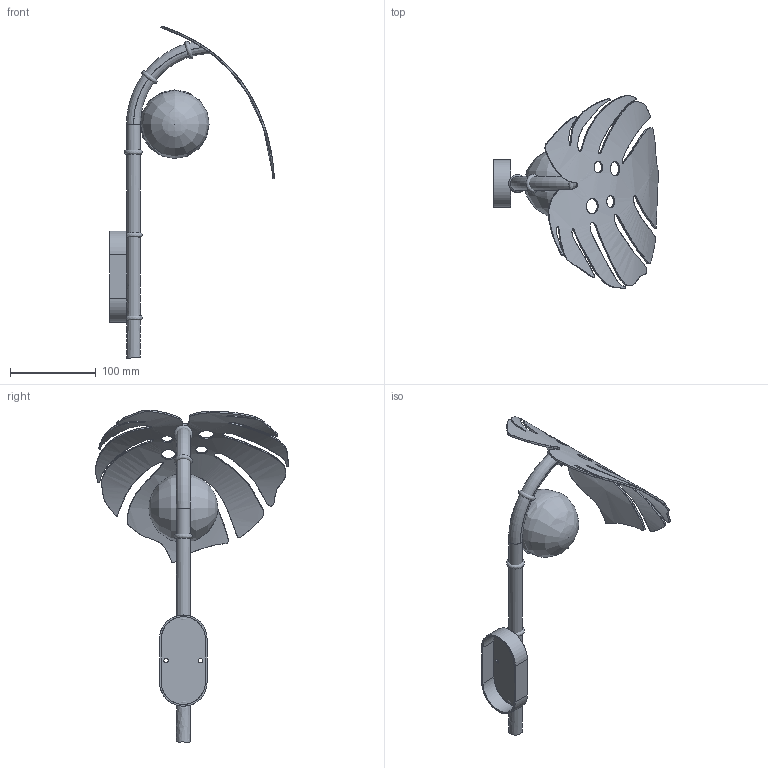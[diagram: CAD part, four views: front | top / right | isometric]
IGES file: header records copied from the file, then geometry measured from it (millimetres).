
Global section: file name: Z:\; native system: Rhinoceros ( Nov 10 2025 ); preprocessor: Trout Lake IGES 012 Nov 10 2025; date: 260524.020449; units: millimetre
Bounding box: 191.76 x 224.5 x 386.21 mm (x, y, z)
Surface area: 135727.7 mm2 (no closed solid volume)
Topology: 0 solids, 0 shells, 32 faces, 1347 edges, 1332 vertices
Faces by surface type: bspline 32
